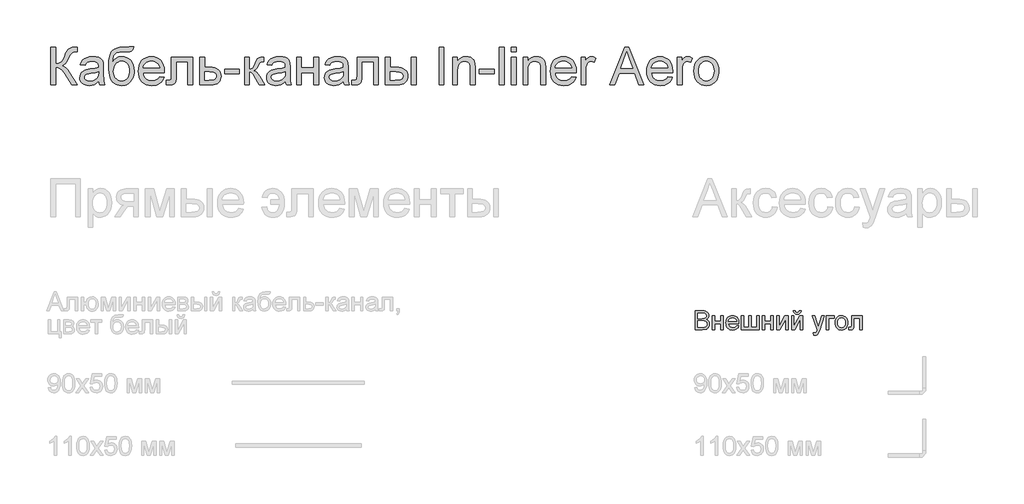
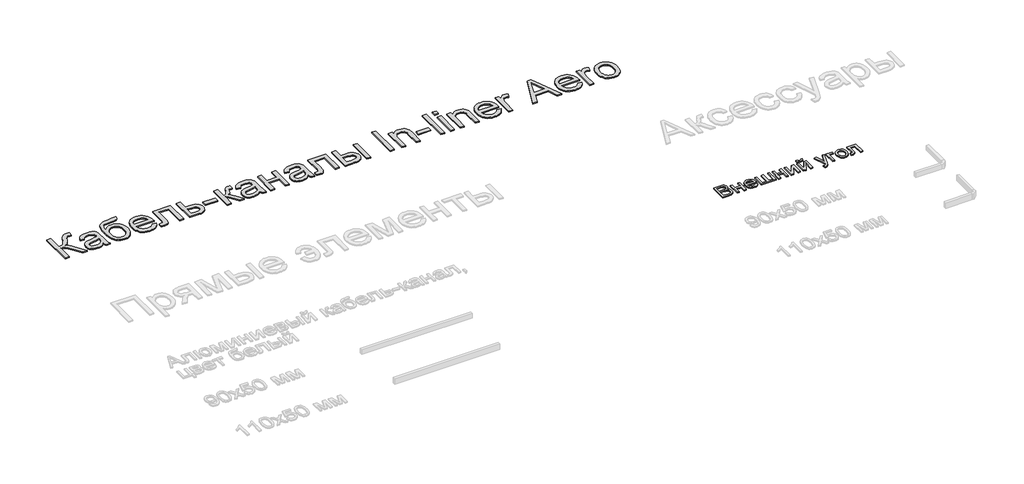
# One storey, part 91 of 168: 2 proxies.
"""IFC4 building model written with IfcOpenShell, lengths in millimetres."""

from ifc_helpers import new_model, si_unit, origin, origin_with_axes, place, context, project, spatial, polyline, outline, extrude, element, save

model = new_model("IFC4")

# Units and contexts
model_context = context("Model", 3, world=origin())
ifc_project = project(units=[si_unit("LENGTHUNIT", "METRE", prefix="MILLI")], contexts=[model_context])

# Site, building, storey
site = spatial("IfcSite", under=ifc_project)
building = spatial("IfcBuilding", under=site)
storey = spatial("IfcBuildingStorey", under=building, Name="Этаж 01", Elevation=0.0)

# Proxies
placement = place(None, origin())
element("IfcBuildingElementProxy", 1, Name="300 мм Arial 2", ObjectType="300 мм Arial 2", at=placement, inside=storey, context=model_context, shape_type="SweptSolid", body=[
    extrude(outline(polyline([(11078.8177316, -7148.4056816), (11078.8177316, -6847.0367511), (11193.8176433, -6847.0367511), (11225.4462978, -6849.2532401), (11250.1403767, -6855.9027072), (11269.0679054, -6867.1506992), (11283.3969091, -6883.162763), (11292.419215, -6901.9983212), (11295.4266503, -6921.7167961), (11292.8974616, -6939.8625756), (11285.3098955, -6956.9231031), (11272.6087696, -6971.849915), (11254.7389017, -6983.5945477), (11276.0852544, -6994.7413722), (11291.858195, -7011.7007322), (11301.5978708, -7033.3505876), (11304.8444294, -7058.5688983), (11302.6279404, -7079.5841573), (11295.9784733, -7099.072706), (11286.0548565, -7115.6457899), (11274.0159182, -7127.9146544), (11259.2730472, -7136.7990046), (11241.2376324, -7143.2185454), (11192.9347265, -7148.4056816), (11078.8177316, -7148.4056816)]), holes=[polyline([(11116.4888479, -6969.4678791), (11185.282781, -6969.4678791), (11225.4554948, -6966.2305176), (11239.5177841, -6960.6479083), (11249.6253419, -6952.2877899), (11255.722986, -6941.2789212), (11257.755534, -6927.7500609), (11255.8609417, -6914.6166736), (11250.1771649, -6903.1755436), (11240.9617209, -6894.2452082), (11228.4721272, -6888.6442048), (11180.0588566, -6884.7078674), (11116.4888479, -6884.7078674), (11116.4888479, -6969.4678791)]), polyline([(11116.4888479, -7110.7345653), (11193.7440669, -7110.7345653), (11221.7030985, -7109.2630373), (11245.3579108, -7101.0592688), (11261.0296838, -7084.320638), (11265.6374058, -7072.4932319), (11267.1733131, -7058.9367803), (11265.3706913, -7043.1914309), (11259.962826, -7029.6533735), (11250.5174558, -7019.0675691), (11236.6023193, -7012.1789788), (11216.8930414, -7008.3989913), (11190.0652469, -7007.1389954), (11116.4888479, -7007.1389954), (11116.4888479, -7110.7345653)])]), origin_with_axes(), (0.0, 0.0, 1.0), 20.0),
    extrude(outline(polyline([(11351.9333248, -6927.0878733), (11389.6044411, -6927.0878733), (11389.6044411, -7011.847885), (11488.4911214, -7011.847885), (11488.4911214, -6927.0878733), (11526.1622377, -6927.0878733), (11526.1622377, -7148.4056816), (11488.4911214, -7148.4056816), (11488.4911214, -7049.5190013), (11389.6044411, -7049.5190013), (11389.6044411, -7148.4056816), (11351.9333248, -7148.4056816), (11351.9333248, -6927.0878733)])), origin_with_axes(), (0.0, 0.0, 1.0), 20.0),
    extrude(outline(polyline([(11737.6208085, -7082.481228), (11774.5561608, -7087.1901176), (11761.2480297, -7115.0203905), (11740.0120415, -7135.8241173), (11711.3264429, -7148.7919577), (11675.6694805, -7153.1145711), (11652.2951783, -7151.2498692), (11631.4684588, -7145.6557637), (11613.1893222, -7136.3322543), (11597.4577684, -7123.2793413), (11584.8072263, -7106.860308), (11575.7711247, -7087.4384379), (11570.3494638, -7065.013731), (11568.5422435, -7039.5861874), (11570.3678579, -7013.2964203), (11575.8447011, -6990.1244531), (11584.9727732, -6970.0702859), (11597.752074, -6953.1339185), (11613.4422411, -6939.6786346), (11631.3029119, -6930.0677174), (11651.3340866, -6924.3011672), (11673.535765, -6922.3789837), (11695.0223727, -6924.2965686), (11714.4534399, -6930.0493233), (11731.8289664, -6939.6372478), (11747.1489522, -6953.0603421), (11759.6546408, -6969.9599213), (11768.5872755, -6989.9773003), (11773.9468563, -7013.1124793), (11775.7333832, -7039.3654582), (11775.512654, -7049.5190013), (11606.2133598, -7049.5190013), (11612.7340682, -7077.7171562), (11627.8816094, -7098.4473066), (11649.7429969, -7111.1944178), (11676.4052445, -7115.4434548), (11696.4548133, -7113.4752861), (11713.3405968, -7107.5707801), (11727.0625953, -7097.3620547), (11737.6208085, -7082.481228)]), holes=[polyline([(11606.2133598, -7011.847885), (11738.0622669, -7011.847885), (11732.9671013, -6991.945469), (11722.9791051, -6977.7084358), (11701.01655, -6964.464684), (11673.3886122, -6960.0501), (11647.9955575, -6963.5725701), (11626.9986926, -6974.1399805), (11612.4029744, -6990.6118968), (11606.2133598, -7011.847885)])]), origin_with_axes(), (0.0, 0.0, 1.0), 20.0),
    extrude(outline(polyline([(11813.4044995, -6927.0878733), (11851.0756158, -6927.0878733), (11851.0756158, -7110.7345653), (11935.8356275, -7110.7345653), (11935.8356275, -6927.0878733), (11973.5067438, -6927.0878733), (11973.5067438, -7110.7345653), (12058.2667555, -7110.7345653), (12058.2667555, -6927.0878733), (12095.9378718, -6927.0878733), (12095.9378718, -7148.4056816), (11813.4044995, -7148.4056816), (11813.4044995, -6927.0878733)])), origin_with_axes(), (0.0, 0.0, 1.0), 20.0),
    extrude(outline(polyline([(12147.7356567, -6927.0878733), (12185.4067731, -6927.0878733), (12185.4067731, -7011.847885), (12284.2934534, -7011.847885), (12284.2934534, -6927.0878733), (12321.9645697, -6927.0878733), (12321.9645697, -7148.4056816), (12284.2934534, -7148.4056816), (12284.2934534, -7049.5190013), (12185.4067731, -7049.5190013), (12185.4067731, -7148.4056816), (12147.7356567, -7148.4056816), (12147.7356567, -6927.0878733)])), origin_with_axes(), (0.0, 0.0, 1.0), 20.0),
    extrude(outline(polyline([(12378.4712441, -6927.0878733), (12416.1423604, -6927.0878733), (12416.1423604, -7095.8721327), (12508.7014704, -6927.0878733), (12557.4090466, -6927.0878733), (12557.4090466, -7148.4056816), (12519.7379303, -7148.4056816), (12519.7379303, -6980.6514918), (12427.7674315, -7148.4056816), (12378.4712441, -7148.4056816), (12378.4712441, -6927.0878733)])), origin_with_axes(), (0.0, 0.0, 1.0), 20.0),
    extrude(outline(polyline([(12613.915721, -6927.0878733), (12651.5868373, -6927.0878733), (12651.5868373, -7095.8721327), (12744.1459473, -6927.0878733), (12792.8535235, -6927.0878733), (12792.8535235, -7148.4056816), (12755.1824072, -7148.4056816), (12755.1824072, -6980.6514918), (12663.2119084, -7148.4056816), (12613.915721, -7148.4056816), (12613.915721, -6927.0878733)])), origin_with_axes(), (0.0, 0.0, 1.0), 20.0),
    extrude(outline(polyline([(12736.346849, -6847.0367511), (12764.6001863, -6847.0367511), (12758.5209363, -6871.160613), (12746.3164511, -6888.9385104), (12728.5385537, -6899.8921968), (12705.739067, -6903.5434256), (12680.9990029, -6899.9197879), (12661.8139568, -6889.048875), (12648.6989637, -6871.2985687), (12642.1690583, -6847.0367511), (12670.4223955, -6847.0367511), (12674.395521, -6859.4435714), (12681.017397, -6868.2635422), (12690.3248114, -6873.5334518), (12702.3545527, -6875.2900883), (12715.9293983, -6873.5886341), (12725.7518476, -6868.4842714), (12732.3737235, -6859.7194829), (12736.346849, -6847.0367511)])), origin_with_axes(), (0.0, 0.0, 1.0), 20.0),
    extrude(outline(polyline([(12967.0824364, -7233.1656933), (12962.3735469, -7196.8925285), (12981.5034106, -7200.2034665), (12999.3824756, -7196.0463999), (13010.345359, -7184.4581171), (13020.6460549, -7156.7198147), (13023.5891109, -7147.5963412), (12943.5379887, -6927.0878733), (12983.2692442, -6927.0878733), (13025.7228264, -7049.9604597), (13040.5116826, -7099.1094942), (13055.3005388, -7055.6994188), (13098.9313435, -6927.0878733), (13138.3682934, -6927.0878733), (13061.3338036, -7153.7031823), (13041.321023, -7202.8522169), (13031.0755095, -7218.5423839), (13019.4688325, -7229.4132969), (13005.9859574, -7235.7592613), (12990.1118493, -7237.8745828), (12967.0824364, -7233.1656933)])), origin_with_axes(), (0.0, 0.0, 1.0), 20.0),
    extrude(outline(polyline([(13169.5646866, -6927.0878733), (13291.9958145, -6927.0878733), (13291.9958145, -6964.7589896), (13207.2358029, -6964.7589896), (13207.2358029, -7148.4056816), (13169.5646866, -7148.4056816), (13169.5646866, -6927.0878733)])), origin_with_axes(), (0.0, 0.0, 1.0), 20.0),
    extrude(outline(polyline([(13310.8313727, -7037.7467774), (13312.8685192, -7009.0841715), (13318.9799589, -6984.385494), (13329.1656916, -6963.6507451), (13343.4257175, -6946.8799246), (13357.7823123, -6936.160763), (13373.6288293, -6928.504219), (13390.9652683, -6923.9102925), (13409.7916294, -6922.3789837), (13430.5746629, -6924.2436856), (13449.366535, -6929.8377912), (13466.1672459, -6939.1613005), (13480.9767955, -6952.2142135), (13493.0640183, -6968.5550719), (13501.6977488, -6987.7424172), (13506.8779872, -7009.7762495), (13508.6047333, -7034.6565687), (13505.5513127, -7072.7139611), (13496.3910511, -7101.6846682), (13481.3906627, -7123.3805088), (13460.8168621, -7139.6133019), (13436.3803006, -7149.7392538), (13409.7916294, -7153.1145711), (13388.7050933, -7151.256767), (13369.7384772, -7145.6833548), (13352.8917811, -7136.3943344), (13338.1650049, -7123.3897059), (13326.2065408, -7106.8901984), (13317.6647808, -7087.1165412), (13312.5397247, -7064.0687342), (13310.8313727, -7037.7467774)]), holes=[polyline([(13348.502489, -7037.673201), (13352.8618906, -7071.7666649), (13365.9400956, -7096.0560737), (13385.6217823, -7110.5966095), (13409.7916294, -7115.4434548), (13433.8511119, -7110.5690184), (13453.4960104, -7095.9457091), (13466.5742154, -7071.3344036), (13470.933617, -7036.4959786), (13466.5466242, -7003.3957961), (13453.3856458, -6979.4374812), (13433.7131561, -6964.8969453), (13409.7916294, -6960.0501), (13385.6217823, -6964.8785512), (13365.9400956, -6979.3639048), (13352.8618906, -7003.5981312), (13348.502489, -7037.673201)])]), origin_with_axes(), (0.0, 0.0, 1.0), 20.0),
    extrude(outline(polyline([(13569.8202973, -6927.0878733), (13739.3403207, -6927.0878733), (13739.3403207, -7148.1849524), (13701.6692044, -7148.1849524), (13701.6692044, -6964.7589896), (13607.4914136, -6964.7589896), (13607.4914136, -7070.3411222), (13604.9530278, -7119.0486984), (13600.1981531, -7130.0759612), (13591.0103002, -7139.6133019), (13577.0675726, -7146.2075866), (13558.0480735, -7148.4056816), (13527.4402915, -7146.4926952), (13527.4402915, -7110.7345653), (13544.2892868, -7110.7345653), (13561.3222232, -7108.4169087), (13568.1280401, -7101.0592688), (13569.8202973, -7068.2074066), (13569.8202973, -6927.0878733)])), origin_with_axes(), (0.0, 0.0, 1.0), 20.0),
])
element("IfcBuildingElementProxy", 2, Name="600 мм Arial", ObjectType="600 мм Arial", at=placement, inside=storey, context=model_context, shape_type="SweptSolid", body=[
    extrude(outline(polyline([(811.7799583, -2645.6678207), (887.1221909, -2645.6678207), (887.1221909, -2909.3656348), (938.1290296, -2904.3808338), (956.9691863, -2898.1498325), (971.3671678, -2889.4264307), (984.1740598, -2875.6446514), (998.2409476, -2854.2385178), (1030.1547107, -2788.5531876), (1053.0553649, -2737.7670782), (1071.7253761, -2704.3082107), (1091.7749449, -2681.4811329), (1118.8142715, -2662.5903924), (1150.9119756, -2649.8984636), (1186.1366766, -2645.6678207), (1235.5800168, -2646.5507375), (1235.5800168, -2721.8929701), (1218.9517506, -2721.4515117), (1202.3234844, -2721.0100533), (1167.8161533, -2725.5350018), (1154.3700663, -2731.1911875), (1143.4623652, -2739.1098474), (1122.4930915, -2767.6207021), (1098.7279146, -2816.659372), (1069.5732665, -2877.7277832), (1045.3850253, -2911.1314684), (1021.5278779, -2928.7162278), (993.3665111, -2942.3278616), (1022.5487504, -2954.7438789), (1051.5286546, -2976.3937343), (1080.3062237, -3007.2774278), (1108.8814576, -3047.3949594), (1235.5800168, -3248.4056816), (1148.1712547, -3248.4056816), (1041.0440177, -3078.5913526), (999.6756874, -3024.1264232), (965.6282087, -2989.9317918), (949.3264378, -2979.4057682), (930.8081779, -2971.8871799), (910.0734289, -2967.3760269), (887.1221909, -2965.8723093), (887.1221909, -3248.4056816), (811.7799583, -3248.4056816), (811.7799583, -2645.6678207)])), origin_with_axes(), (0.0, 0.0, 1.0), 20.0),
    extrude(outline(polyline([(1574.6200635, -3191.8990071), (1538.6228103, -3222.7643065), (1501.5586993, -3242.961028), (1462.5816019, -3254.1078525), (1420.8453895, -3257.8234606), (1387.2991501, -3255.5885775), (1357.8823861, -3248.8839282), (1332.5950974, -3237.7095126), (1311.4372842, -3222.0653307), (1294.7308431, -3202.944664), (1282.7976709, -3181.3407938), (1275.6377675, -3157.2537202), (1273.2511331, -3130.6834431), (1276.8563766, -3099.4502617), (1287.6721073, -3071.0865599), (1304.3555558, -3046.8063482), (1325.5639528, -3027.8236373), (1350.487958, -3013.4762394), (1378.3182309, -3003.1019672), (1443.5069204, -2991.7712017), (1520.5414102, -2979.8518251), (1574.1786051, -2965.8723093), (1574.6200635, -2949.0968903), (1569.4329274, -2915.4724759), (1562.9490072, -2903.0196704), (1553.871519, -2893.4731326), (1538.1813519, -2883.9449889), (1519.0698823, -2877.139172), (1470.5830353, -2871.6945185), (1425.7014319, -2875.3181562), (1394.3578859, -2886.1890691), (1372.983942, -2906.2938202), (1358.0111448, -2937.618972), (1282.6689122, -2928.201193), (1295.7471171, -2886.9984095), (1315.2632569, -2854.6247939), (1343.0383476, -2829.8663357), (1380.8934049, -2811.5090241), (1427.191354, -2800.1414704), (1480.29512, -2796.3522859), (1531.2283822, -2799.7000121), (1571.6034312, -2809.7431905), (1602.0456663, -2824.8447464), (1623.1804869, -2843.3676049), (1637.1967909, -2866.2682591), (1646.2834762, -2894.5032022), (1649.9622961, -2960.4276557), (1649.9622961, -3054.1639881), (1653.7882689, -3185.056402), (1659.4536516, -3217.4116235), (1668.7978543, -3248.4056816), (1593.4556217, -3248.4056816), (1581.3890922, -3222.2124835), (1574.6200635, -3191.8990071)]), holes=[polyline([(1574.6200635, -3041.2145419), (1523.999501, -3053.7593179), (1453.0718523, -3064.3175312), (1388.2510448, -3076.5312134), (1371.3836553, -3084.8821347), (1358.8940616, -3096.3968412), (1351.1685397, -3110.192416), (1348.5933657, -3125.3859424), (1354.2035661, -3147.7899559), (1371.0341674, -3166.1472674), (1398.7172875, -3178.3977379), (1436.8850445, -3182.481228), (1477.352064, -3177.9746736), (1513.1101939, -3164.4550103), (1542.0992952, -3144.5342002), (1562.2592285, -3120.8242056), (1571.198761, -3096.3968412), (1574.1786051, -3062.5516976), (1574.6200635, -3041.2145419)])]), origin_with_axes(), (0.0, 0.0, 1.0), 20.0),
    extrude(outline(polyline([(2064.3445755, -2636.2500416), (2130.269029, -2636.2500416), (2123.1321183, -2672.0633538), (2110.8448597, -2695.0375844), (2093.8119233, -2708.6308241), (2072.4379794, -2716.3011637), (2037.5995545, -2719.8328309), (1980.173175, -2721.0100533), (1903.5617495, -2725.3510608), (1876.1131542, -2730.7773203), (1855.902637, -2738.3740835), (1840.4791844, -2748.3620796), (1827.3917824, -2760.962038), (1816.6404311, -2776.1739585), (1808.2251305, -2793.9978411), (1796.9495473, -2837.7390104), (1792.1118991, -2892.443063), (1822.4069814, -2850.3573628), (1857.374165, -2820.338192), (1876.6189919, -2809.8443581), (1897.0502382, -2802.3487624), (1941.4719891, -2796.3522859), (1982.5184227, -2800.1644631), (2019.8676423, -2811.6009946), (2053.5196478, -2830.6618805), (2083.4744393, -2857.3471207), (2108.0673506, -2890.5346752), (2125.6337159, -2929.1025039), (2136.1735351, -2973.0506067), (2139.6868081, -3022.3789837), (2137.9439672, -3060.1144794), (2132.7154443, -3094.2999138), (2124.0012396, -3124.9352869), (2111.8013529, -3152.0205988), (2081.3223296, -3196.8838081), (2045.6561702, -3230.232311), (2024.797261, -3242.303439), (2000.4802611, -3250.9256732), (1972.7051705, -3256.0990138), (1941.4719891, -3257.8234606), (1905.3413787, -3255.6023731), (1873.4690023, -3248.9391105), (1845.85486, -3237.8336727), (1822.4989519, -3222.2860599), (1802.509164, -3203.2757578), (1784.9933825, -3181.7822522), (1769.9516074, -3157.8055432), (1757.3838387, -3131.3456307), (1747.469419, -3098.5075641), (1740.3876906, -3055.3963928), (1736.1386535, -3002.0121168), (1734.7223078, -2938.354736), (1738.2953617, -2859.0255823), (1749.0145233, -2793.795506), (1766.8797927, -2742.6645072), (1778.4922178, -2722.3861619), (1791.8911699, -2705.6325859), (1824.3153692, -2679.3980011), (1864.4191052, -2660.659012), (1912.2023779, -2649.4156185), (1967.6651872, -2645.6678207), (2051.5422821, -2643.9755635), (2059.7460506, -2641.1980544), (2064.3445755, -2636.2500416)]), holes=[polyline([(2064.3445755, -3020.024539), (2062.3028304, -2988.9063207), (2056.1775952, -2960.7403554), (2045.9688698, -2935.5266432), (2031.6766543, -2913.265184), (2013.6688307, -2895.0780178), (1992.3132809, -2882.0871849), (1967.6100049, -2874.2926851), (1939.5590027, -2871.6945185), (1910.284793, -2874.4398379), (1884.5606445, -2882.6757961), (1862.3865572, -2896.402393), (1843.7625312, -2915.6196287), (1829.0196602, -2939.4261923), (1818.4890381, -2966.920773), (1812.1706649, -2998.1033706), (1810.0645404, -3032.9739852), (1812.3913941, -3067.1180329), (1819.3719549, -3097.0038465), (1831.006223, -3122.6314259), (1847.2941984, -3144.0007713), (1866.9942792, -3160.8359711), (1888.8648638, -3172.8611139), (1912.9059522, -3180.0761995), (1939.1175444, -3182.481228), (1965.6878215, -3179.6991204), (1989.6277423, -3171.3527977), (2010.9373069, -3157.4422597), (2029.6165152, -3137.9675066), (2044.8100416, -3113.9034256), (2055.6625604, -3086.224904), (2062.1740717, -3054.9319418), (2064.3445755, -3020.024539)])]), origin_with_axes(), (0.0, 0.0, 1.0), 20.0),
    extrude(outline(polyline([(2543.7683916, -3116.5567745), (2617.6390963, -3125.9745536), (2606.3129293, -3155.561463), (2591.0228339, -3181.6350994), (2571.76881, -3204.1954628), (2548.5508576, -3223.2425531), (2521.6080999, -3238.3717002), (2491.1796604, -3249.1782338), (2457.265539, -3255.6621539), (2419.8657356, -3257.8234606), (2373.1171311, -3254.0940569), (2331.4636922, -3242.9058457), (2294.9054189, -3224.2588271), (2263.4423113, -3198.153001), (2238.1412271, -3165.3149344), (2220.0690241, -3126.4711943), (2209.2257023, -3081.6217805), (2205.6112617, -3030.7666932), (2209.2624905, -2978.1871591), (2220.2161769, -2931.8432247), (2238.4723209, -2891.7348902), (2264.0309225, -2857.8621555), (2295.4112567, -2830.9515875), (2331.1325984, -2811.7297533), (2371.1949477, -2800.1966527), (2415.5983045, -2796.3522859), (2458.5715201, -2800.1874557), (2497.4336543, -2811.6929651), (2532.1847073, -2830.8688141), (2562.824679, -2857.7150027), (2587.8360561, -2891.514161), (2605.7013255, -2931.5489191), (2616.4204871, -2977.8192771), (2619.993541, -3030.3252348), (2619.5520826, -3050.632321), (2280.9534943, -3050.632321), (2285.3174944, -3080.697477), (2293.994911, -3107.0286308), (2306.985744, -3129.6257824), (2324.2899933, -3148.4889317), (2344.9511659, -3163.3605613), (2368.0127684, -3173.9831539), (2393.474801, -3180.3567095), (2421.3372636, -3182.481228), (2461.4364011, -3178.5448907), (2495.2079683, -3166.7358786), (2522.6519651, -3146.3184279), (2543.7683916, -3116.5567745)]), holes=[polyline([(2280.9534943, -2975.2900883), (2544.6513084, -2975.2900883), (2534.4609771, -2935.4852565), (2525.6961886, -2919.8318776), (2514.4849848, -2907.01119), (2493.9387754, -2891.5601462), (2470.5598746, -2880.5236864), (2444.3482824, -2873.9018105), (2415.3039989, -2871.6945185), (2388.8118967, -2873.4557536), (2364.5178895, -2878.7394587), (2342.4219771, -2887.545634), (2322.5241597, -2899.8742793), (2305.8269157, -2915.1551777), (2293.3327234, -2932.818112), (2285.0415829, -2952.8630822), (2280.9534943, -2975.2900883)])]), origin_with_axes(), (0.0, 0.0, 1.0), 20.0),
    extrude(outline(polyline([(2733.0068899, -2805.770065), (3072.0469367, -2805.770065), (3072.0469367, -3247.9642232), (2996.7047041, -3247.9642232), (2996.7047041, -2881.1122976), (2808.3491226, -2881.1122976), (2808.3491226, -3092.2765628), (2807.0799297, -3153.5657032), (2803.272351, -3189.6917151), (2793.7626014, -3211.7462407), (2775.3868958, -3230.8209222), (2747.5014406, -3244.0094917), (2709.4624423, -3248.4056816), (2648.2468783, -3244.5797088), (2648.2468783, -3173.063449), (2681.944869, -3173.063449), (2702.3807138, -3171.9046207), (2716.0107418, -3168.4281358), (2724.52721, -3162.4316593), (2729.6223756, -3153.712856), (2733.0068899, -3088.0091317), (2733.0068899, -2805.770065)])), origin_with_axes(), (0.0, 0.0, 1.0), 20.0),
    extrude(outline(polyline([(3185.0602856, -2805.770065), (3260.4025182, -2805.770065), (3260.4025182, -2965.8723093), (3347.2226691, -2965.8723093), (3387.3034125, -2968.2313526), (3422.4913253, -2975.3084824), (3452.7864076, -2987.1036989), (3478.1886594, -3003.617002), (3498.2750163, -3024.2781745), (3512.6224141, -3048.5169995), (3521.2308528, -3076.3334768), (3524.1003324, -3107.7276066), (3521.6585156, -3135.737222), (3514.3330654, -3161.640713), (3502.1239817, -3185.4380796), (3485.0312645, -3207.1293217), (3462.5674702, -3225.1877291), (3434.245155, -3238.0865916), (3400.0643192, -3245.8259091), (3360.0249625, -3248.4056816), (3185.0602856, -3248.4056816), (3185.0602856, -2805.770065)]), holes=[polyline([(3260.4025182, -3173.063449), (3330.7415557, -3173.063449), (3385.3168497, -3169.1087175), (3405.748096, -3164.1653032), (3421.6084085, -3157.2445232), (3433.4863984, -3148.2268158), (3441.9706769, -3136.9926193), (3447.0612441, -3123.5419339), (3448.7580998, -3107.8747594), (3443.7365105, -3083.2634539), (3428.6717428, -3061.521628), (3415.5797423, -3052.6372778), (3396.3900977, -3046.2913134), (3339.7178764, -3041.2145419), (3260.4025182, -3041.2145419), (3260.4025182, -3173.063449)])]), origin_with_axes(), (0.0, 0.0, 1.0), 20.0),
    extrude(outline(polyline([(3580.6070068, -3069.4678791), (3580.6070068, -2994.1256465), (3816.0514837, -2994.1256465), (3816.0514837, -3069.4678791), (3580.6070068, -3069.4678791)])), origin_with_axes(), (0.0, 0.0, 1.0), 20.0),
    extrude(outline(polyline([(3900.8114954, -2805.770065), (3976.153728, -2805.770065), (3976.153728, -2994.1256465), (4006.7982982, -2990.7411321), (4026.6271378, -2980.5875891), (4044.175109, -2954.1000854), (4067.977074, -2901.7136893), (4087.1621201, -2858.873831), (4102.3372524, -2833.6555202), (4116.5007092, -2819.9151277), (4132.6507288, -2811.5090241), (4154.99956, -2807.2048048), (4187.7594517, -2805.770065), (4202.1804259, -2805.770065), (4202.1804259, -2881.553756), (4181.8733397, -2881.1122976), (4158.3288921, -2883.0988604), (4145.0851402, -2889.0585487), (4134.342986, -2905.6500267), (4119.1862478, -2938.6490416), (4103.2753515, -2971.7032389), (4088.799195, -2992.2862365), (4071.2696179, -3006.026629), (4046.1984599, -3018.553011), (4070.0740014, -3029.1572095), (4093.7288137, -3047.873206), (4117.1628968, -3074.7010005), (4140.3762507, -3109.640593), (4221.015984, -3248.4056816), (4135.3730556, -3248.4056816), (4056.352003, -3112.5836489), (4035.0148473, -3076.4392429), (4016.6207475, -3055.1204813), (3998.0427068, -3044.6910267), (3976.153728, -3041.2145419), (3976.153728, -3248.4056816), (3900.8114954, -3248.4056816), (3900.8114954, -2805.770065)])), origin_with_axes(), (0.0, 0.0, 1.0), 20.0),
    extrude(outline(polyline([(4550.6382517, -3191.8990071), (4514.6409985, -3222.7643065), (4477.5768875, -3242.961028), (4438.5997901, -3254.1078525), (4396.8635777, -3257.8234606), (4363.3173383, -3255.5885775), (4333.9005743, -3248.8839282), (4308.6132856, -3237.7095126), (4287.4554724, -3222.0653307), (4270.7490313, -3202.944664), (4258.815859, -3181.3407938), (4251.6559557, -3157.2537202), (4249.2693213, -3130.6834431), (4252.8745648, -3099.4502617), (4263.6902955, -3071.0865599), (4280.373744, -3046.8063482), (4301.582141, -3027.8236373), (4326.5061461, -3013.4762394), (4354.3364191, -3003.1019672), (4419.5251086, -2991.7712017), (4496.5595984, -2979.8518251), (4550.1967933, -2965.8723093), (4550.6382517, -2949.0968903), (4545.4511156, -2915.4724759), (4538.9671954, -2903.0196704), (4529.8897072, -2893.4731326), (4514.1995401, -2883.9449889), (4495.0880704, -2877.139172), (4446.6012235, -2871.6945185), (4401.7196201, -2875.3181562), (4370.3760741, -2886.1890691), (4349.0021302, -2906.2938202), (4334.029333, -2937.618972), (4258.6871003, -2928.201193), (4271.7653053, -2886.9984095), (4291.2814451, -2854.6247939), (4319.0565357, -2829.8663357), (4356.9115931, -2811.5090241), (4403.2095421, -2800.1414704), (4456.3133081, -2796.3522859), (4507.2465704, -2799.7000121), (4547.6216194, -2809.7431905), (4578.0638545, -2824.8447464), (4599.1986751, -2843.3676049), (4613.2149791, -2866.2682591), (4622.3016644, -2894.5032022), (4625.9804843, -2960.4276557), (4625.9804843, -3054.1639881), (4629.8064571, -3185.056402), (4635.4718398, -3217.4116235), (4644.8160425, -3248.4056816), (4569.4738099, -3248.4056816), (4557.4072804, -3222.2124835), (4550.6382517, -3191.8990071)]), holes=[polyline([(4550.6382517, -3041.2145419), (4500.0176892, -3053.7593179), (4429.0900405, -3064.3175312), (4364.269233, -3076.5312134), (4347.4018435, -3084.8821347), (4334.9122497, -3096.3968412), (4327.1867278, -3110.192416), (4324.6115539, -3125.3859424), (4330.2217543, -3147.7899559), (4347.0523556, -3166.1472674), (4374.7354757, -3178.3977379), (4412.9032327, -3182.481228), (4453.3702522, -3177.9746736), (4489.1283821, -3164.4550103), (4518.1174833, -3144.5342002), (4538.2774167, -3120.8242056), (4547.2169492, -3096.3968412), (4550.1967933, -3062.5516976), (4550.6382517, -3041.2145419)])]), origin_with_axes(), (0.0, 0.0, 1.0), 20.0),
    extrude(outline(polyline([(4729.5760542, -2805.770065), (4804.9182868, -2805.770065), (4804.9182868, -2975.2900883), (5002.6916474, -2975.2900883), (5002.6916474, -2805.770065), (5078.03388, -2805.770065), (5078.03388, -3248.4056816), (5002.6916474, -3248.4056816), (5002.6916474, -3050.632321), (4804.9182868, -3050.632321), (4804.9182868, -3248.4056816), (4729.5760542, -3248.4056816), (4729.5760542, -2805.770065)])), origin_with_axes(), (0.0, 0.0, 1.0), 20.0),
    extrude(outline(polyline([(5473.5806012, -3191.8990071), (5437.583348, -3222.7643065), (5400.519237, -3242.961028), (5361.5421396, -3254.1078525), (5319.8059272, -3257.8234606), (5286.2596878, -3255.5885775), (5256.8429238, -3248.8839282), (5231.5556351, -3237.7095126), (5210.3978219, -3222.0653307), (5193.6913808, -3202.944664), (5181.7582085, -3181.3407938), (5174.5983052, -3157.2537202), (5172.2116708, -3130.6834431), (5175.8169143, -3099.4502617), (5186.632645, -3071.0865599), (5203.3160935, -3046.8063482), (5224.5244905, -3027.8236373), (5249.4484956, -3013.4762394), (5277.2787686, -3003.1019672), (5342.4674581, -2991.7712017), (5419.5019479, -2979.8518251), (5473.1391428, -2965.8723093), (5473.5806012, -2949.0968903), (5468.3934651, -2915.4724759), (5461.9095449, -2903.0196704), (5452.8320567, -2893.4731326), (5437.1418896, -2883.9449889), (5418.0304199, -2877.139172), (5369.543573, -2871.6945185), (5324.6619696, -2875.3181562), (5293.3184236, -2886.1890691), (5271.9444797, -2906.2938202), (5256.9716825, -2937.618972), (5181.6294498, -2928.201193), (5194.7076548, -2886.9984095), (5214.2237946, -2854.6247939), (5241.9988852, -2829.8663357), (5279.8539426, -2811.5090241), (5326.1518916, -2800.1414704), (5379.2556576, -2796.3522859), (5430.1889199, -2799.7000121), (5470.5639689, -2809.7431905), (5501.006204, -2824.8447464), (5522.1410246, -2843.3676049), (5536.1573286, -2866.2682591), (5545.2440139, -2894.5032022), (5548.9228338, -2960.4276557), (5548.9228338, -3054.1639881), (5552.7488066, -3185.056402), (5558.4141893, -3217.4116235), (5567.758392, -3248.4056816), (5492.4161594, -3248.4056816), (5480.3496299, -3222.2124835), (5473.5806012, -3191.8990071)]), holes=[polyline([(5473.5806012, -3041.2145419), (5422.9600387, -3053.7593179), (5352.03239, -3064.3175312), (5287.2115825, -3076.5312134), (5270.344193, -3084.8821347), (5257.8545992, -3096.3968412), (5250.1290773, -3110.192416), (5247.5539034, -3125.3859424), (5253.1641038, -3147.7899559), (5269.9947051, -3166.1472674), (5297.6778252, -3178.3977379), (5335.8455822, -3182.481228), (5376.3126017, -3177.9746736), (5412.0707316, -3164.4550103), (5441.0598328, -3144.5342002), (5461.2197662, -3120.8242056), (5470.1592987, -3096.3968412), (5473.1391428, -3062.5516976), (5473.5806012, -3041.2145419)])]), origin_with_axes(), (0.0, 0.0, 1.0), 20.0),
    extrude(outline(polyline([(5690.18952, -2805.770065), (6029.2295667, -2805.770065), (6029.2295667, -3247.9642232), (5953.8873341, -3247.9642232), (5953.8873341, -2881.1122976), (5765.5317526, -2881.1122976), (5765.5317526, -3092.2765628), (5764.2625597, -3153.5657032), (5760.454981, -3189.6917151), (5750.9452315, -3211.7462407), (5732.5695258, -3230.8209222), (5704.6840706, -3244.0094917), (5666.6450723, -3248.4056816), (5605.4295083, -3244.5797088), (5605.4295083, -3173.063449), (5639.127499, -3173.063449), (5659.5633439, -3171.9046207), (5673.1933718, -3168.4281358), (5681.70984, -3162.4316593), (5686.8050056, -3153.712856), (5690.18952, -3088.0091317), (5690.18952, -2805.770065)])), origin_with_axes(), (0.0, 0.0, 1.0), 20.0),
    extrude(outline(polyline([(6556.625195, -2805.770065), (6631.9674276, -2805.770065), (6631.9674276, -3248.4056816), (6556.625195, -3248.4056816), (6556.625195, -2805.770065)])), origin_with_axes(), (0.0, 0.0, 1.0), 20.0),
    extrude(outline(polyline([(6142.2429156, -2805.770065), (6217.5851483, -2805.770065), (6217.5851483, -2965.8723093), (6310.7328694, -2965.8723093), (6353.5957204, -2968.2313526), (6391.2438441, -2975.3084824), (6423.6772405, -2987.1036989), (6450.8959096, -3003.617002), (6472.4308019, -3024.2781745), (6487.8128678, -3048.5169995), (6497.0421074, -3076.3334768), (6500.1185206, -3107.7276066), (6497.5387481, -3135.737222), (6489.7994306, -3161.640713), (6476.9005681, -3185.4380796), (6458.8421607, -3207.1293217), (6435.1183705, -3225.1877291), (6405.2233599, -3238.0865916), (6369.1571288, -3245.8259091), (6326.9196772, -3248.4056816), (6142.2429156, -3248.4056816), (6142.2429156, -2805.770065)]), holes=[polyline([(6217.5851483, -3173.063449), (6294.98752, -3173.063449), (6354.9890735, -3169.1087175), (6377.4574663, -3164.1653032), (6394.9042699, -3157.2445232), (6407.9732778, -3148.2268158), (6417.3082834, -3136.9926193), (6422.9092868, -3123.5419339), (6424.7762879, -3107.8747594), (6419.2396639, -3083.2634539), (6402.6297918, -3061.521628), (6388.2134161, -3052.6372778), (6367.1107852, -3046.2913134), (6304.8467575, -3041.2145419), (6217.5851483, -3041.2145419), (6217.5851483, -3173.063449)])]), origin_with_axes(), (0.0, 0.0, 1.0), 20.0),
    extrude(outline(polyline([(6999.2608116, -3248.4056816), (6999.2608116, -2645.6678207), (7074.6030442, -2645.6678207), (7074.6030442, -3248.4056816), (6999.2608116, -3248.4056816)])), origin_with_axes(), (0.0, 0.0, 1.0), 20.0),
    extrude(outline(polyline([(7215.8697304, -3248.4056816), (7215.8697304, -2805.770065), (7291.211963, -2805.770065), (7291.211963, -2867.5742402), (7317.3867669, -2836.4146352), (7348.8222834, -2814.1577745), (7385.5185124, -2800.803658), (7427.475454, -2796.3522859), (7464.6131414, -2799.9391353), (7498.6238319, -2810.6996837), (7526.9875337, -2827.2911617), (7547.1842552, -2848.3708), (7560.8878595, -2873.8834164), (7569.7722097, -2903.7738285), (7573.7453353, -2976.6144635), (7573.7453353, -3248.4056816), (7498.4031027, -3248.4056816), (7498.4031027, -2986.7680066), (7496.2325989, -2947.8093033), (7489.7210876, -2920.1077891), (7477.7097404, -2900.2605554), (7459.0397292, -2884.8646939), (7435.1090054, -2874.9870624), (7407.3155207, -2871.6945185), (7384.4378591, -2873.5431255), (7363.1880753, -2879.0889466), (7343.5661694, -2888.3319817), (7325.5721413, -2901.2722309), (7310.5395633, -2919.3812221), (7299.8020076, -2944.1304834), (7293.3594741, -2975.5200146), (7291.211963, -3013.5498158), (7291.211963, -3248.4056816), (7215.8697304, -3248.4056816)])), origin_with_axes(), (0.0, 0.0, 1.0), 20.0),
    extrude(outline(polyline([(7639.6697888, -3069.4678791), (7639.6697888, -2994.1256465), (7875.1142657, -2994.1256465), (7875.1142657, -3069.4678791), (7639.6697888, -3069.4678791)])), origin_with_axes(), (0.0, 0.0, 1.0), 20.0),
    extrude(outline(polyline([(7959.8742774, -3248.4056816), (7959.8742774, -2645.6678207), (8035.21651, -2645.6678207), (8035.21651, -3248.4056816), (7959.8742774, -3248.4056816)])), origin_with_axes(), (0.0, 0.0, 1.0), 20.0),
    extrude(outline(polyline([(8148.2298589, -2721.0100533), (8148.2298589, -2645.6678207), (8223.5720916, -2645.6678207), (8223.5720916, -2721.0100533), (8148.2298589, -2721.0100533)])), origin_with_axes(), (0.0, 0.0, 1.0), 20.0),
    extrude(outline(polyline([(8148.2298589, -3248.4056816), (8148.2298589, -2805.770065), (8223.5720916, -2805.770065), (8223.5720916, -3248.4056816), (8148.2298589, -3248.4056816)])), origin_with_axes(), (0.0, 0.0, 1.0), 20.0),
    extrude(outline(polyline([(8336.5854405, -3248.4056816), (8336.5854405, -2805.770065), (8411.9276731, -2805.770065), (8411.9276731, -2867.5742402), (8438.102477, -2836.4146352), (8469.5379935, -2814.1577745), (8506.2342226, -2800.803658), (8548.1911641, -2796.3522859), (8585.3288515, -2799.9391353), (8619.339542, -2810.6996837), (8647.7032438, -2827.2911617), (8667.8999653, -2848.3708), (8681.6035697, -2873.8834164), (8690.4879198, -2903.7738285), (8694.4610454, -2976.6144635), (8694.4610454, -3248.4056816), (8619.1188128, -3248.4056816), (8619.1188128, -2986.7680066), (8616.948309, -2947.8093033), (8610.4367977, -2920.1077891), (8598.4254505, -2900.2605554), (8579.7554393, -2884.8646939), (8555.8247155, -2874.9870624), (8528.0312308, -2871.6945185), (8505.1535692, -2873.5431255), (8483.9037854, -2879.0889466), (8464.2818795, -2888.3319817), (8446.2878514, -2901.2722309), (8431.2552734, -2919.3812221), (8420.5177177, -2944.1304834), (8414.0751842, -2975.5200146), (8411.9276731, -3013.5498158), (8411.9276731, -3248.4056816), (8336.5854405, -3248.4056816)])), origin_with_axes(), (0.0, 0.0, 1.0), 20.0),
    extrude(outline(polyline([(9107.960408, -3116.5567745), (9181.8311126, -3125.9745536), (9170.5049457, -3155.561463), (9155.2148502, -3181.6350994), (9135.9608263, -3204.1954628), (9112.7428739, -3223.2425531), (9085.8001163, -3238.3717002), (9055.3716768, -3249.1782338), (9021.4575553, -3255.6621539), (8984.057752, -3257.8234606), (8937.3091474, -3254.0940569), (8895.6557085, -3242.9058457), (8859.0974353, -3224.2588271), (8827.6343276, -3198.153001), (8802.3332434, -3165.3149344), (8784.2610404, -3126.4711943), (8773.4177186, -3081.6217805), (8769.803278, -3030.7666932), (8773.4545068, -2978.1871591), (8784.4081932, -2931.8432247), (8802.6643372, -2891.7348902), (8828.2229388, -2857.8621555), (8859.603273, -2830.9515875), (8895.3246147, -2811.7297533), (8935.386964, -2800.1966527), (8979.7903208, -2796.3522859), (9022.7635364, -2800.1874557), (9061.6256707, -2811.6929651), (9096.3767236, -2830.8688141), (9127.0166953, -2857.7150027), (9152.0280725, -2891.514161), (9169.8933418, -2931.5489191), (9180.6125035, -2977.8192771), (9184.1855574, -3030.3252348), (9183.744099, -3050.632321), (8845.1455106, -3050.632321), (8849.5095108, -3080.697477), (8858.1869273, -3107.0286308), (8871.1777603, -3129.6257824), (8888.4820096, -3148.4889317), (8909.1431822, -3163.3605613), (8932.2047848, -3173.9831539), (8957.6668174, -3180.3567095), (8985.52928, -3182.481228), (9025.6284174, -3178.5448907), (9059.3999846, -3166.7358786), (9086.8439814, -3146.3184279), (9107.960408, -3116.5567745)]), holes=[polyline([(8845.1455106, -2975.2900883), (9108.8433247, -2975.2900883), (9098.6529935, -2935.4852565), (9089.8882049, -2919.8318776), (9078.6770011, -2907.01119), (9058.1307917, -2891.5601462), (9034.7518909, -2880.5236864), (9008.5402988, -2873.9018105), (8979.4960152, -2871.6945185), (8953.0039131, -2873.4557536), (8928.7099058, -2878.7394587), (8906.6139935, -2887.545634), (8886.7161761, -2899.8742793), (8870.018932, -2915.1551777), (8857.5247397, -2932.818112), (8849.2335993, -2952.8630822), (8845.1455106, -2975.2900883)])]), origin_with_axes(), (0.0, 0.0, 1.0), 20.0),
    extrude(outline(polyline([(9259.52779, -3248.4056816), (9259.52779, -2805.770065), (9325.4522435, -2805.770065), (9325.4522435, -2871.2530601), (9349.8060316, -2833.2876382), (9372.2468333, -2810.9204129), (9394.7612114, -2799.9943176), (9419.3357287, -2796.3522859), (9456.8596922, -2802.1648214), (9494.9722669, -2819.602428), (9469.8091384, -2887.1455623), (9443.3216348, -2875.5572795), (9416.8341311, -2871.6945185), (9394.3381471, -2875.4101267), (9374.2333961, -2886.5569511), (9357.991406, -2904.2888633), (9347.0837048, -2927.7597346), (9337.9234431, -2969.8454348), (9334.8700226, -3015.7571078), (9334.8700226, -3248.4056816), (9259.52779, -3248.4056816)])), origin_with_axes(), (0.0, 0.0, 1.0), 20.0),
    extrude(outline(polyline([(9716.7315336, -3248.4056816), (9957.3263584, -2645.6678207), (10021.4849784, -2645.6678207), (10262.0798032, -3248.4056816), (10182.4701395, -3248.4056816), (10113.4554772, -3060.0501), (9865.2087068, -3060.0501), (9796.3411973, -3248.4056816), (9716.7315336, -3248.4056816)]), holes=[polyline([(9892.8734329, -2984.7078674), (10085.9379039, -2984.7078674), (10031.6385215, -2836.5249998), (9989.4056684, -2721.0100533), (9951.8817049, -2823.5755535), (9892.8734329, -2984.7078674)])]), origin_with_axes(), (0.0, 0.0, 1.0), 20.0),
    extrude(outline(polyline([(10643.0583974, -3116.5567745), (10716.9291021, -3125.9745536), (10705.6029351, -3155.561463), (10690.3128397, -3181.6350994), (10671.0588158, -3204.1954628), (10647.8408634, -3223.2425531), (10620.8981058, -3238.3717002), (10590.4696662, -3249.1782338), (10556.5555448, -3255.6621539), (10519.1557415, -3257.8234606), (10472.4071369, -3254.0940569), (10430.753698, -3242.9058457), (10394.1954247, -3224.2588271), (10362.7323171, -3198.153001), (10337.4312329, -3165.3149344), (10319.3590299, -3126.4711943), (10308.5157081, -3081.6217805), (10304.9012675, -3030.7666932), (10308.5524963, -2978.1871591), (10319.5061827, -2931.8432247), (10337.7623267, -2891.7348902), (10363.3209283, -2857.8621555), (10394.7012625, -2830.9515875), (10430.4226042, -2811.7297533), (10470.4849535, -2800.1966527), (10514.8883103, -2796.3522859), (10557.8615259, -2800.1874557), (10596.7236601, -2811.6929651), (10631.4747131, -2830.8688141), (10662.1146848, -2857.7150027), (10687.1260619, -2891.514161), (10704.9913313, -2931.5489191), (10715.710493, -2977.8192771), (10719.2835468, -3030.3252348), (10718.8420884, -3050.632321), (10380.2435001, -3050.632321), (10384.6075002, -3080.697477), (10393.2849168, -3107.0286308), (10406.2757498, -3129.6257824), (10423.5799991, -3148.4889317), (10444.2411717, -3163.3605613), (10467.3027742, -3173.9831539), (10492.7648068, -3180.3567095), (10520.6272694, -3182.481228), (10560.7264069, -3178.5448907), (10594.4979741, -3166.7358786), (10621.9419709, -3146.3184279), (10643.0583974, -3116.5567745)]), holes=[polyline([(10380.2435001, -2975.2900883), (10643.9413142, -2975.2900883), (10633.750983, -2935.4852565), (10624.9861944, -2919.8318776), (10613.7749906, -2907.01119), (10593.2287812, -2891.5601462), (10569.8498804, -2880.5236864), (10543.6382882, -2873.9018105), (10514.5940047, -2871.6945185), (10488.1019025, -2873.4557536), (10463.8078953, -2878.7394587), (10441.7119829, -2887.545634), (10421.8141655, -2899.8742793), (10405.1169215, -2915.1551777), (10392.6227292, -2932.818112), (10384.3315888, -2952.8630822), (10380.2435001, -2975.2900883)])]), origin_with_axes(), (0.0, 0.0, 1.0), 20.0),
    extrude(outline(polyline([(10794.6257794, -3248.4056816), (10794.6257794, -2805.770065), (10860.550233, -2805.770065), (10860.550233, -2871.2530601), (10884.9040211, -2833.2876382), (10907.3448228, -2810.9204129), (10929.8592009, -2799.9943176), (10954.4337182, -2796.3522859), (10991.9576817, -2802.1648214), (11030.0702564, -2819.602428), (11004.9071279, -2887.1455623), (10978.4196242, -2875.5572795), (10951.9321206, -2871.6945185), (10929.4361366, -2875.4101267), (10909.3313855, -2886.5569511), (10893.0893955, -2904.2888633), (10882.1816943, -2927.7597346), (10873.0214326, -2969.8454348), (10869.9680121, -3015.7571078), (10869.9680121, -3248.4056816), (10794.6257794, -3248.4056816)])), origin_with_axes(), (0.0, 0.0, 1.0), 20.0),
    extrude(outline(polyline([(11058.3235936, -3027.0878733), (11062.3978867, -2969.7626614), (11074.620766, -2920.3653065), (11094.9922315, -2878.8958086), (11123.5122831, -2845.3541677), (11152.2254729, -2823.9158444), (11183.9185067, -2808.6027563), (11218.5913848, -2799.4149035), (11256.244107, -2796.3522859), (11297.8101739, -2800.0816896), (11335.3939183, -2811.2699008), (11368.99534, -2829.9169194), (11398.6144391, -2856.0227455), (11422.7888847, -2888.7044623), (11440.0563459, -2927.0791529), (11450.4168226, -2971.1468174), (11453.8703148, -3020.9074558), (11452.3436045, -3061.2365195), (11447.7634737, -3097.0222406), (11440.1299223, -3128.264619), (11429.4429503, -3154.9636548), (11415.835915, -3178.0252574), (11399.4421736, -3198.3553361), (11380.2617261, -3215.9538911), (11358.2945725, -3230.8209222), (11334.3960383, -3242.6345328), (11309.4214494, -3251.072826), (11283.3708056, -3256.135802), (11256.244107, -3257.8234606), (11214.0710348, -3254.1078525), (11176.1378025, -3242.961028), (11142.4444103, -3224.3829873), (11112.9908581, -3198.3737302), (11089.0739299, -3165.3747153), (11071.9904097, -3125.8274008), (11061.7402976, -3079.7317868), (11058.3235936, -3027.0878733)]), holes=[polyline([(11133.6658262, -3026.9407205), (11135.845527, -3063.4851982), (11142.3846295, -3095.1276483), (11153.2831336, -3121.8680708), (11168.5410393, -3143.7064657), (11187.100686, -3160.6704242), (11207.9044128, -3172.7875375), (11230.9522198, -3180.0578054), (11256.244107, -3182.481228), (11281.4072355, -3180.0440098), (11304.363072, -3172.7323552), (11325.1116165, -3160.5462641), (11343.652869, -3143.4857365), (11358.9107748, -3121.4312109), (11369.8092789, -3094.2631256), (11376.3483814, -3061.9814805), (11378.5280822, -3024.5862757), (11376.3345858, -2989.2006263), (11369.7540966, -2958.3859107), (11358.7866146, -2932.1421288), (11343.4321399, -2910.4692808), (11324.8219094, -2893.5053223), (11304.0871605, -2881.3882091), (11281.227893, -2874.1179412), (11256.244107, -2871.6945185), (11230.9522198, -2874.1087441), (11207.9044128, -2881.3514209), (11187.100686, -2893.4225488), (11168.5410393, -2910.322128), (11153.2831336, -2932.0961436), (11142.3846295, -2958.7905809), (11135.845527, -2990.4054398), (11133.6658262, -3026.9407205)])]), origin_with_axes(), (0.0, 0.0, 1.0), 20.0),
])

save(model, "model.ifc")
